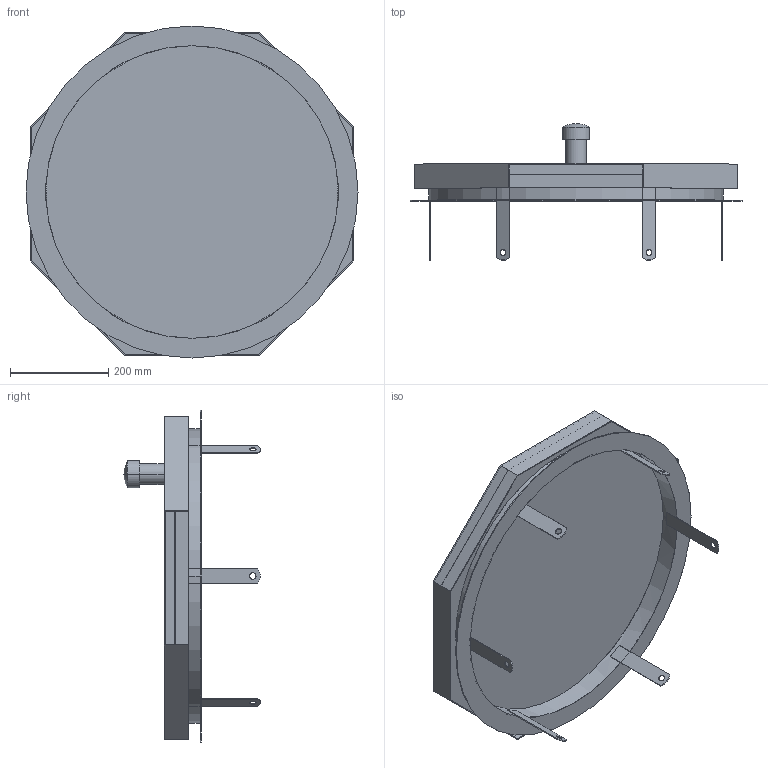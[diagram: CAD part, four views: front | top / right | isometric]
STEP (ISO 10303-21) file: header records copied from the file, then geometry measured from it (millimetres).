
FILE_DESCRIPTION((''),'2;1');
FILE_NAME('017_000107','2018-09-06T',('set'),('HUBER SE'),'PRO/ENGINEER BY PARAMETRIC TECHNOLOGY CORPORATION, 2017170','PRO/ENGINEER BY PARAMETRIC TECHNOLOGY CORPORATION, 2017170','');
FILE_SCHEMA(('AUTOMOTIVE_DESIGN { 1 0 10303 214 1 1 1 1 }'));
Length unit declared in the file: millimetre
Products named in the file (1): 017_000107
Bounding box: 675 x 277.25 x 675 mm (x, y, z)
Volume: 1856386.7 mm3; surface area: 2000750 mm2
Topology: 2 solids, 3 shells, 93 faces, 250 edges, 165 vertices
Faces by surface type: plane 63, cylinder 28, sphere 2
Entity records: 3531 total; most frequent: CARTESIAN_POINT 517, DIRECTION 517, ORIENTED_EDGE 496, EDGE_CURVE 248, VECTOR 178, LINE 178, AXIS2_PLACEMENT_3D 168, VERTEX_POINT 165
